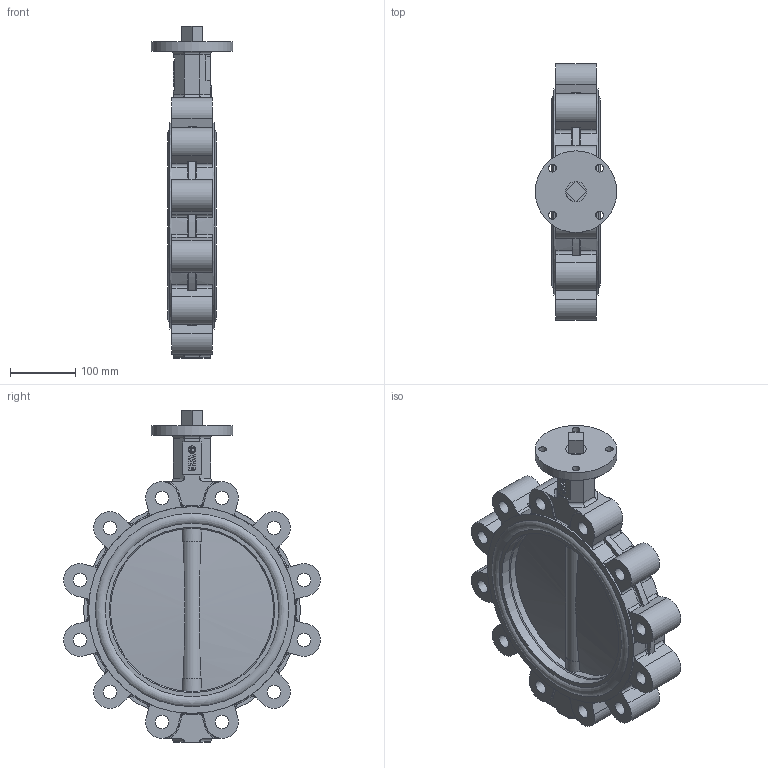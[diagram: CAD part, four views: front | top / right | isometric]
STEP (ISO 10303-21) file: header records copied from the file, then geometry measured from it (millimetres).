
FILE_DESCRIPTION(('STEP AP242'), '1');
FILE_NAME('Ïîâîðîòíûé çàòâîð ïîä ýëåêòðîïðèâîä', '', ('UNSPECIFIED'), ('UNSPECIFIED'), 'C3D Converter', 'C3D Toolkit', '');
FILE_SCHEMA(('AP242_MANAGED_MODEL_BASED_3D_ENGINEERING_MIM_LF { 1 0 10303 442 1 1 4 }'));
Length unit declared in the file: millimetre
Products named in the file (6): П
Assembly tree (6 placements, depth 2):
  (unnamed)
    (unnamed)
    П  x2
    (unnamed)
    (unnamed)
    (unnamed)
Bounding box: 125 x 392.71 x 508 mm (x, y, z)
Volume: 4741007.1 mm3; surface area: 747863.5 mm2
Topology: 6 solids, 6 shells, 680 faces, 1779 edges, 1142 vertices
Faces by surface type: plane 254, cylinder 188, extrusion 151, torus 79, cone 4, sphere 4
Full cylindrical faces by diameter (mm): 11.421 x1, 12 x4, 20.752 x12, 22 x5, 24.2 x1, 31.113 x5, 32.11 x4, 125 x1, 250 x1, 253.125 x2, 265.625 x2, 280.812 x4, 296 x4, 316.533 x2
Entity records: 26431 total; most frequent: CARTESIAN_POINT 7920, ORIENTED_EDGE 3434, DIRECTION 3014, EDGE_CURVE 1717, VERTEX_POINT 1137, AXIS2_PLACEMENT_3D 1016, VECTOR 982, LINE 831
